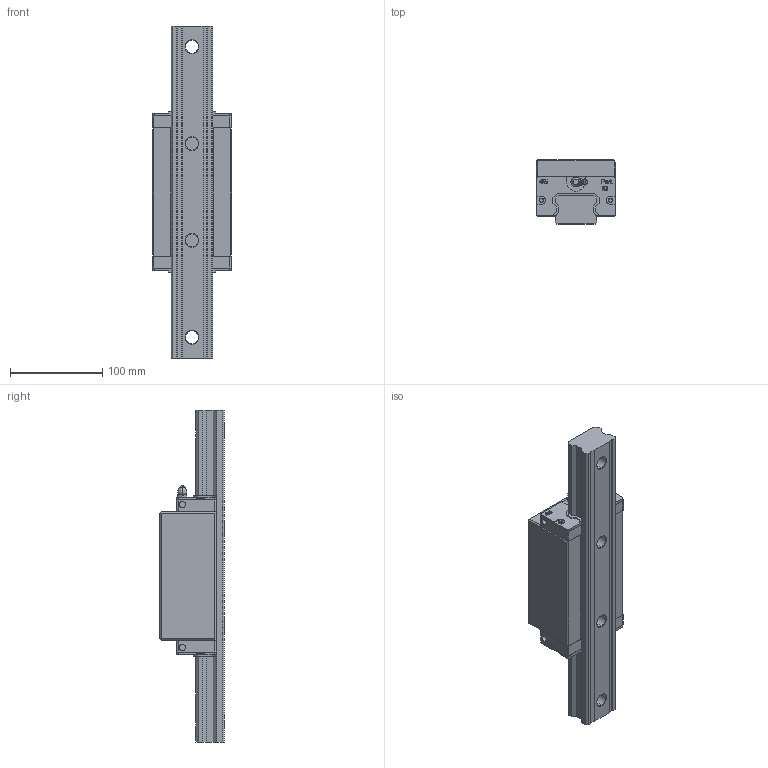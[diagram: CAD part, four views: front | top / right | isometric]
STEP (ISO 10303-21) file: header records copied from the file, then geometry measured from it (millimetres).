
FILE_DESCRIPTION (( 'STEP AP203' ), '1' );
FILE_NAME ('BGCH45BE.STEP', '2025-10-20T07:30:50', ( '' ), ( '' ), 'SwSTEP 2.0', 'SolidWorks 2020', '' );
FILE_SCHEMA (( 'CONFIG_CONTROL_DESIGN' ));
Length unit declared in the file: millimetre
Products named in the file (5): BGR45-L360; BGCH45BE; BG45端防塵; BGXH45BE; NGX04
Assembly tree (5 placements, depth 2):
  BGCH45BE
    BGR45-L360
    BGXH45BE
    BG45端防塵  x2
    NGX04
Bounding box: 85.95 x 70 x 360 mm (x, y, z)
Volume: 1108408.5 mm3; surface area: 156395.9 mm2
Topology: 7 solids, 7 shells, 813 faces, 2194 edges, 1450 vertices
Faces by surface type: plane 582, cylinder 128, bspline 50, cone 49, torus 4
Entity records: 20758 total; most frequent: CARTESIAN_POINT 6491, ORIENTED_EDGE 2938, DIRECTION 2639, EDGE_CURVE 1469, VECTOR 1075, LINE 1075, VERTEX_POINT 968, AXIS2_PLACEMENT_3D 782
